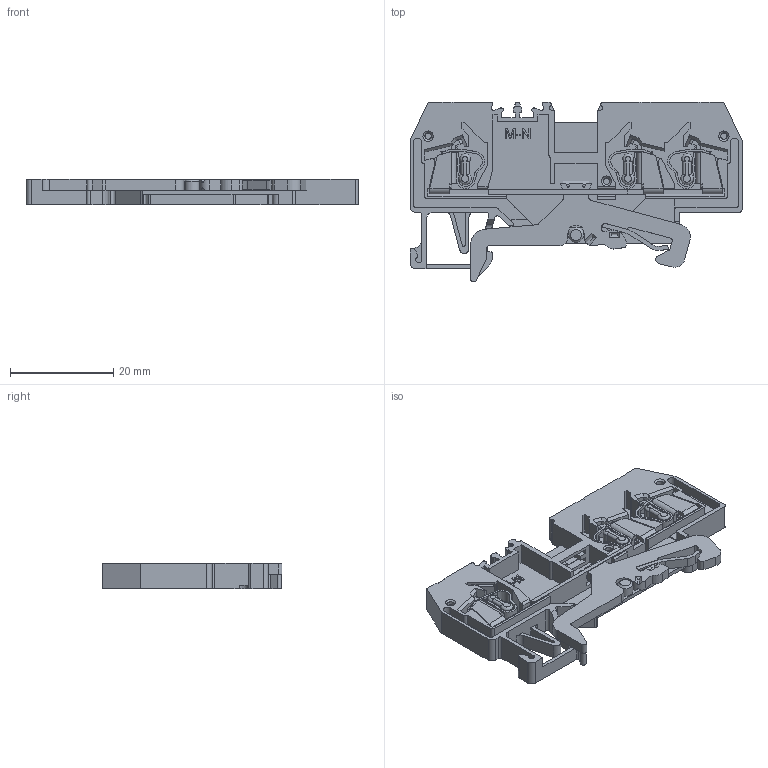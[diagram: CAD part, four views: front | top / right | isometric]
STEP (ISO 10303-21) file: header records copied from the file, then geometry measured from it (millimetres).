
FILE_DESCRIPTION (( 'STEP AP203' ), '1' );
FILE_NAME ('ﾊﾏﾐ1-2,5ﾂ-3ﾂ-ﾐﾅ.STEP', '2019-03-01T12:58:25', ( '' ), ( '' ), 'SwSTEP 2.0', 'SolidWorks 2016', '' );
FILE_SCHEMA (( 'CONFIG_CONTROL_DESIGN' ));
Length unit declared in the file: millimetre
Products named in the file (1): ﾊﾏﾐ1-2,5ﾂ-3ﾂ-ﾐﾅ
Bounding box: 64.2 x 34.8 x 5 mm (x, y, z)
Volume: 4067.3 mm3; surface area: 9208.5 mm2
Topology: 7 solids, 7 shells, 993 faces, 2785 edges, 1814 vertices
Faces by surface type: plane 675, cylinder 265, bspline 28, cone 16, torus 9
Full cylindrical faces by diameter (mm): 1.4 x3, 1.6 x3, 2.9 x1
Entity records: 33733 total; most frequent: CARTESIAN_POINT 8116, ORIENTED_EDGE 5530, DIRECTION 5045, EDGE_CURVE 2765, VECTOR 2087, LINE 2087, VERTEX_POINT 1814, AXIS2_PLACEMENT_3D 1479
